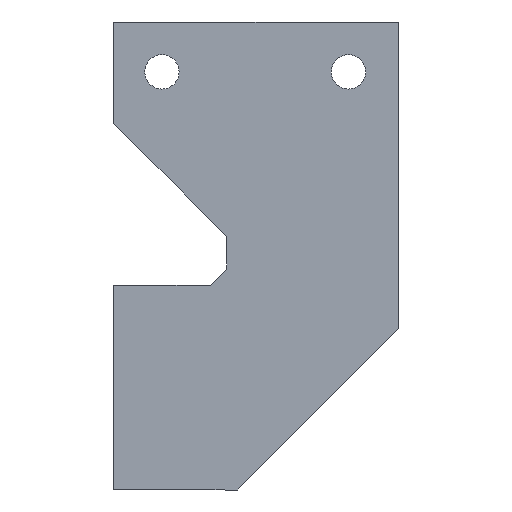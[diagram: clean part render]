
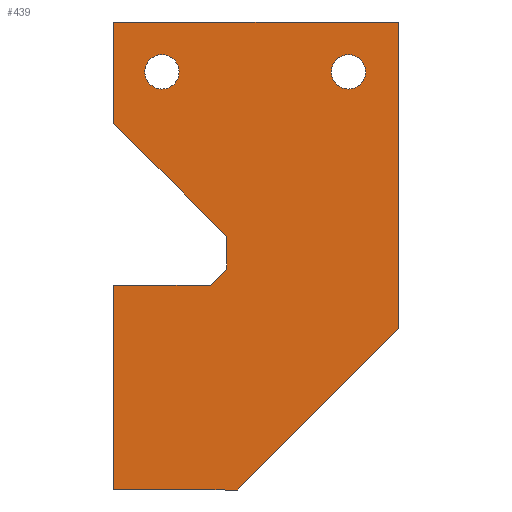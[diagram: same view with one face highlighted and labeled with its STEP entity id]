
A CAD part, front view. The second image highlights one B-rep face of the part: STEP entity #439.
In plain terms, the highlighted planar face has unit normal (0, -1, 0).
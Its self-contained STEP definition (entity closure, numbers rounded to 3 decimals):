
#27=FACE_BOUND('',#84,.T.);
#28=FACE_BOUND('',#85,.T.);
#39=CIRCLE('',#486,2.1);
#40=CIRCLE('',#487,2.1);
#55=FACE_OUTER_BOUND('',#83,.T.);
#83=EDGE_LOOP('',(#369,#370,#371,#372,#373,#374,#375,#376,#377,#378));
#84=EDGE_LOOP('',(#379));
#85=EDGE_LOOP('',(#380));
#95=LINE('',#621,#143);
#118=LINE('',#678,#166);
#119=LINE('',#681,#167);
#125=LINE('',#695,#173);
#128=LINE('',#706,#176);
#131=LINE('',#713,#179);
#132=LINE('',#715,#180);
#133=LINE('',#716,#181);
#134=LINE('',#718,#182);
#135=LINE('',#719,#183);
#143=VECTOR('',#501,10.);
#166=VECTOR('',#546,10.);
#167=VECTOR('',#549,10.);
#173=VECTOR('',#561,10.);
#176=VECTOR('',#576,10.);
#179=VECTOR('',#585,10.);
#180=VECTOR('',#586,10.);
#181=VECTOR('',#587,10.);
#182=VECTOR('',#588,10.);
#183=VECTOR('',#589,10.);
#191=VERTEX_POINT('',#618);
#192=VERTEX_POINT('',#620);
#214=VERTEX_POINT('',#674);
#215=VERTEX_POINT('',#676);
#216=VERTEX_POINT('',#680);
#220=VERTEX_POINT('',#692);
#221=VERTEX_POINT('',#694);
#224=VERTEX_POINT('',#712);
#225=VERTEX_POINT('',#714);
#226=VERTEX_POINT('',#717);
#227=VERTEX_POINT('',#720);
#228=VERTEX_POINT('',#722);
#231=EDGE_CURVE('',#192,#191,#95,.T.);
#260=EDGE_CURVE('',#214,#215,#118,.T.);
#261=EDGE_CURVE('',#216,#214,#119,.T.);
#268=EDGE_CURVE('',#221,#220,#125,.T.);
#274=EDGE_CURVE('',#220,#192,#128,.T.);
#277=EDGE_CURVE('',#191,#224,#131,.T.);
#278=EDGE_CURVE('',#224,#225,#132,.T.);
#279=EDGE_CURVE('',#225,#216,#133,.T.);
#280=EDGE_CURVE('',#215,#226,#134,.T.);
#281=EDGE_CURVE('',#226,#221,#135,.T.);
#282=EDGE_CURVE('',#227,#227,#39,.T.);
#283=EDGE_CURVE('',#228,#228,#40,.T.);
#369=ORIENTED_EDGE('',*,*,#231,.T.);
#370=ORIENTED_EDGE('',*,*,#277,.T.);
#371=ORIENTED_EDGE('',*,*,#278,.T.);
#372=ORIENTED_EDGE('',*,*,#279,.T.);
#373=ORIENTED_EDGE('',*,*,#261,.T.);
#374=ORIENTED_EDGE('',*,*,#260,.T.);
#375=ORIENTED_EDGE('',*,*,#280,.T.);
#376=ORIENTED_EDGE('',*,*,#281,.T.);
#377=ORIENTED_EDGE('',*,*,#268,.T.);
#378=ORIENTED_EDGE('',*,*,#274,.T.);
#379=ORIENTED_EDGE('',*,*,#282,.T.);
#380=ORIENTED_EDGE('',*,*,#283,.T.);
#419=PLANE('',#485);
#439=ADVANCED_FACE('',(#55,#27,#28),#419,.F.);
#485=AXIS2_PLACEMENT_3D('',#711,#583,#584);
#486=AXIS2_PLACEMENT_3D('',#721,#590,#591);
#487=AXIS2_PLACEMENT_3D('',#723,#592,#593);
#501=DIRECTION('',(0.,0.,-1.));
#546=DIRECTION('',(0.,0.,-1.));
#549=DIRECTION('',(-1.,0.,0.));
#561=DIRECTION('',(0.,0.,1.));
#576=DIRECTION('',(-1.,0.,0.));
#583=DIRECTION('center_axis',(0.,1.,0.));
#584=DIRECTION('ref_axis',(-1.,0.,0.));
#585=DIRECTION('',(0.707,0.,-0.707));
#586=DIRECTION('',(0.,0.,-1.));
#587=DIRECTION('',(-0.707,0.,-0.707));
#588=DIRECTION('',(1.,0.,0.));
#589=DIRECTION('',(0.707,0.,0.707));
#590=DIRECTION('center_axis',(0.,1.,0.));
#591=DIRECTION('ref_axis',(-1.,0.,0.));
#592=DIRECTION('center_axis',(0.,1.,0.));
#593=DIRECTION('ref_axis',(-1.,0.,0.));
#618=CARTESIAN_POINT('',(-0.085,-360.5,44.777));
#620=CARTESIAN_POINT('',(-0.085,-360.5,57.17));
#621=CARTESIAN_POINT('',(-0.085,-360.5,42.87));
#674=CARTESIAN_POINT('',(-0.085,-360.5,24.97));
#676=CARTESIAN_POINT('',(-0.085,-360.5,-0.03));
#678=CARTESIAN_POINT('',(-0.085,-360.5,14.27));
#680=CARTESIAN_POINT('',(11.722,-360.5,24.97));
#681=CARTESIAN_POINT('',(11.722,-360.5,24.97));
#692=CARTESIAN_POINT('',(34.722,-360.5,57.17));
#694=CARTESIAN_POINT('',(34.722,-360.5,19.686));
#695=CARTESIAN_POINT('',(34.722,-360.5,-0.03));
#706=CARTESIAN_POINT('',(-0.278,-360.5,57.17));
#711=CARTESIAN_POINT('Origin',(17.222,-360.5,28.57));
#712=CARTESIAN_POINT('',(13.722,-360.5,30.97));
#713=CARTESIAN_POINT('',(-0.278,-360.5,44.97));
#714=CARTESIAN_POINT('',(13.722,-360.5,26.97));
#715=CARTESIAN_POINT('',(13.722,-360.5,44.97));
#716=CARTESIAN_POINT('',(13.722,-360.5,26.97));
#717=CARTESIAN_POINT('',(15.007,-360.5,-0.03));
#718=CARTESIAN_POINT('',(-0.278,-360.5,-0.03));
#719=CARTESIAN_POINT('',(34.722,-360.5,19.686));
#720=CARTESIAN_POINT('',(7.922,-360.5,51.07));
#721=CARTESIAN_POINT('Origin',(5.822,-360.5,51.07));
#722=CARTESIAN_POINT('',(30.722,-360.5,51.07));
#723=CARTESIAN_POINT('Origin',(28.622,-360.5,51.07));
